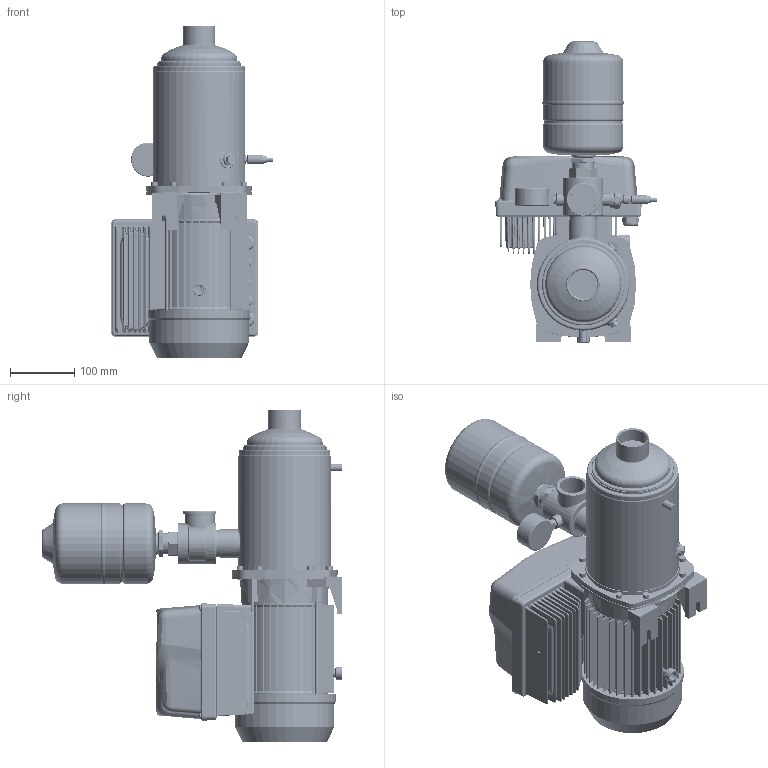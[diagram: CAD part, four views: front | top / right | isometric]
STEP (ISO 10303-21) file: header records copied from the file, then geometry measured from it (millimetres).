
FILE_DESCRIPTION((''),'2;1');
FILE_NAME('1GPE_MATRIX_10-6T_2-2_ESPT_ASM','2024-12-02T15:19:31',('Utente'),('"Ebara Pumps Europe S.p.A"'),'CREO PARAMETRIC BY PTC INC, 2022124','CREO PARAMETRIC BY PTC INC, 2022124','');
FILE_SCHEMA(('AUTOMOTIVE_DESIGN { 1 0 10303 214 1 1 1 1 }'));
Length unit declared in the file: millimetre
Products named in the file (14): EP_MATRIX10-6T_2-2_IE3; EP_MATRIX_10-6T_2-2_ASM; ADATTATORE_E-SPD_MEC80-90-100; E-SPD_ADATTATORE_MEC80-90-100_ASM; BACK_E-SPD_PLUS_2200-4000; COVER_E-SPD_PLUS_2200-4000; COM_E-SPDT_MEC80-90-100_ORIZ_ASM; RACC_5_VIE_NR_1_1-4_A304; TRASD_ASHCROFT_M12_GEN; CABLE_M12_FEMALE; TRASD_ASHCROFT_10B_MP_362331051_ASM; MAN_RAD_D50_10BAR_361600160; VASO_ESPANSIONE_2L_GWS; 1GPE_MATRIX_10-6T_2-2_ESPT_ASM
Assembly tree (13 placements, depth 3):
  1GPE_MATRIX_10-6T_2-2_ESPT_ASM
    EP_MATRIX_10-6T_2-2_ASM
      EP_MATRIX10-6T_2-2_IE3
    E-SPD_ADATTATORE_MEC80-90-100_ASM
      ADATTATORE_E-SPD_MEC80-90-100
    COM_E-SPDT_MEC80-90-100_ORIZ_ASM
      BACK_E-SPD_PLUS_2200-4000
      COVER_E-SPD_PLUS_2200-4000
    RACC_5_VIE_NR_1_1-4_A304
    TRASD_ASHCROFT_10B_MP_362331051_ASM
      TRASD_ASHCROFT_M12_GEN
      CABLE_M12_FEMALE
    MAN_RAD_D50_10BAR_361600160
    VASO_ESPANSIONE_2L_GWS
Bounding box: 252.74 x 468.31 x 516.8 mm (x, y, z)
Volume: 5431063.9 mm3; surface area: 1378116.3 mm2
Topology: 91 solids, 512 shells, 12016 faces, 30527 edges, 18120 vertices
Faces by surface type: plane 6003, cylinder 2633, sphere 1047, bspline 950, cone 482, torus 466, extrusion 435
Entity records: 489012 total; most frequent: CARTESIAN_POINT 173734, ORIENTED_EDGE 56219, DIRECTION 53535, EDGE_CURVE 29050, VERTEX_POINT 18000, VECTOR 17859, AXIS2_PLACEMENT_3D 17819, LINE 17424
